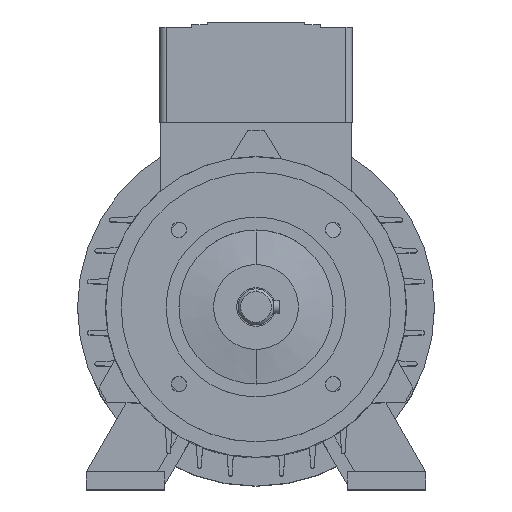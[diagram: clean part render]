
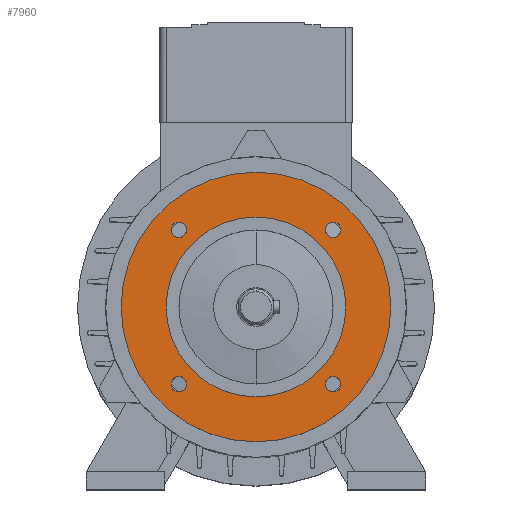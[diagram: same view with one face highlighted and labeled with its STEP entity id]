
A CAD part, top view. The second image highlights one B-rep face of the part: STEP entity #7960.
In plain terms, the highlighted planar face has unit normal (0, 0, 1).
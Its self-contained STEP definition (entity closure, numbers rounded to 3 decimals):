
#2505=CARTESIAN_POINT('',(-30.052,30.052,23.));
#2506=DIRECTION('',(0.,0.,-1.));
#2507=DIRECTION('',(-1.,0.,0.));
#2508=AXIS2_PLACEMENT_3D('',#2505,#2506,#2507);
#2510=CARTESIAN_POINT('',(-30.052,30.052,23.));
#2511=DIRECTION('',(0.,0.,-1.));
#2512=DIRECTION('',(1.,0.,0.));
#2513=AXIS2_PLACEMENT_3D('',#2510,#2511,#2512);
#2515=CARTESIAN_POINT('',(-30.052,-30.052,23.));
#2516=DIRECTION('',(0.,0.,-1.));
#2517=DIRECTION('',(-1.,0.,0.));
#2518=AXIS2_PLACEMENT_3D('',#2515,#2516,#2517);
#2520=CARTESIAN_POINT('',(-30.052,-30.052,23.));
#2521=DIRECTION('',(0.,0.,-1.));
#2522=DIRECTION('',(1.,0.,0.));
#2523=AXIS2_PLACEMENT_3D('',#2520,#2521,#2522);
#2525=CARTESIAN_POINT('',(30.052,-30.052,23.));
#2526=DIRECTION('',(0.,0.,-1.));
#2527=DIRECTION('',(-1.,0.,0.));
#2528=AXIS2_PLACEMENT_3D('',#2525,#2526,#2527);
#2530=CARTESIAN_POINT('',(30.052,-30.052,23.));
#2531=DIRECTION('',(0.,0.,-1.));
#2532=DIRECTION('',(1.,0.,0.));
#2533=AXIS2_PLACEMENT_3D('',#2530,#2531,#2532);
#2535=CARTESIAN_POINT('',(0.,0.,23.));
#2536=DIRECTION('',(0.,0.,1.));
#2537=DIRECTION('',(0.,1.,0.));
#2538=AXIS2_PLACEMENT_3D('',#2535,#2536,#2537);
#2540=CARTESIAN_POINT('',(0.,0.,23.));
#2541=DIRECTION('',(0.,0.,-1.));
#2542=DIRECTION('',(0.,1.,0.));
#2543=AXIS2_PLACEMENT_3D('',#2540,#2541,#2542);
#2545=CARTESIAN_POINT('',(30.052,30.052,23.));
#2546=DIRECTION('',(0.,0.,-1.));
#2547=DIRECTION('',(-1.,0.,0.));
#2548=AXIS2_PLACEMENT_3D('',#2545,#2546,#2547);
#2550=CARTESIAN_POINT('',(30.052,30.052,23.));
#2551=DIRECTION('',(0.,0.,-1.));
#2552=DIRECTION('',(1.,0.,0.));
#2553=AXIS2_PLACEMENT_3D('',#2550,#2551,#2552);
#2987=CARTESIAN_POINT('',(0.,0.,23.));
#2988=DIRECTION('',(0.,0.,1.));
#2989=DIRECTION('',(0.,1.,0.));
#2990=AXIS2_PLACEMENT_3D('',#2987,#2988,#2989);
#2992=CARTESIAN_POINT('',(0.,0.,23.));
#2993=DIRECTION('',(0.,0.,-1.));
#2994=DIRECTION('',(0.,1.,0.));
#2995=AXIS2_PLACEMENT_3D('',#2992,#2993,#2994);
#3567=CARTESIAN_POINT('',(0.,52.5,23.));
#3569=VERTEX_POINT('',#3567);
#3570=CARTESIAN_POINT('',(0.,35.,23.));
#3572=VERTEX_POINT('',#3570);
#3575=CARTESIAN_POINT('',(0.,-52.5,23.));
#3577=VERTEX_POINT('',#3575);
#3578=CARTESIAN_POINT('',(0.,-35.,23.));
#3580=VERTEX_POINT('',#3578);
#3590=CARTESIAN_POINT('',(27.052,30.052,23.));
#3591=CARTESIAN_POINT('',(33.052,30.052,23.));
#3592=VERTEX_POINT('',#3590);
#3593=VERTEX_POINT('',#3591);
#3594=CARTESIAN_POINT('',(27.052,-30.052,23.));
#3595=CARTESIAN_POINT('',(33.052,-30.052,23.));
#3596=VERTEX_POINT('',#3594);
#3597=VERTEX_POINT('',#3595);
#3598=CARTESIAN_POINT('',(-33.052,-30.052,23.));
#3599=CARTESIAN_POINT('',(-27.052,-30.052,23.));
#3600=VERTEX_POINT('',#3598);
#3601=VERTEX_POINT('',#3599);
#3602=CARTESIAN_POINT('',(-33.052,30.052,23.));
#3603=CARTESIAN_POINT('',(-27.052,30.052,23.));
#3604=VERTEX_POINT('',#3602);
#3605=VERTEX_POINT('',#3603);
#7921=CARTESIAN_POINT('',(0.,0.,23.));
#7922=DIRECTION('',(0.,0.,-1.));
#7923=DIRECTION('',(0.,-1.,0.));
#7924=AXIS2_PLACEMENT_3D('',#7921,#7922,#7923);
#7925=PLANE('',#7924);
#7926=ORIENTED_EDGE('',*,*,#7914,.F.);
#7927=ORIENTED_EDGE('',*,*,#7903,.T.);
#7928=EDGE_LOOP('',(#7926,#7927));
#7929=FACE_OUTER_BOUND('',#7928,.F.);
#7931=ORIENTED_EDGE('',*,*,#7930,.F.);
#7933=ORIENTED_EDGE('',*,*,#7932,.F.);
#7934=EDGE_LOOP('',(#7931,#7933));
#7935=FACE_BOUND('',#7934,.F.);
#7937=ORIENTED_EDGE('',*,*,#7936,.F.);
#7939=ORIENTED_EDGE('',*,*,#7938,.F.);
#7940=EDGE_LOOP('',(#7937,#7939));
#7941=FACE_BOUND('',#7940,.F.);
#7943=ORIENTED_EDGE('',*,*,#7942,.F.);
#7945=ORIENTED_EDGE('',*,*,#7944,.F.);
#7946=EDGE_LOOP('',(#7943,#7945));
#7947=FACE_BOUND('',#7946,.F.);
#7949=ORIENTED_EDGE('',*,*,#7948,.F.);
#7951=ORIENTED_EDGE('',*,*,#7950,.T.);
#7952=EDGE_LOOP('',(#7949,#7951));
#7953=FACE_BOUND('',#7952,.F.);
#7955=ORIENTED_EDGE('',*,*,#7954,.F.);
#7957=ORIENTED_EDGE('',*,*,#7956,.F.);
#7958=EDGE_LOOP('',(#7955,#7957));
#7959=FACE_BOUND('',#7958,.F.);
#7960=ADVANCED_FACE('',(#7929,#7935,#7941,#7947,#7953,#7959),#7925,.F.);
#2509=CIRCLE('',#2508,3.);
#2514=CIRCLE('',#2513,3.);
#2519=CIRCLE('',#2518,3.);
#2524=CIRCLE('',#2523,3.);
#2529=CIRCLE('',#2528,3.);
#2534=CIRCLE('',#2533,3.);
#2539=CIRCLE('',#2538,52.5);
#2544=CIRCLE('',#2543,52.5);
#2549=CIRCLE('',#2548,3.);
#2554=CIRCLE('',#2553,3.);
#2991=CIRCLE('',#2990,35.);
#2996=CIRCLE('',#2995,35.);
#7903=EDGE_CURVE('',#3569,#3577,#2544,.T.);
#7914=EDGE_CURVE('',#3569,#3577,#2539,.T.);
#7930=EDGE_CURVE('',#3604,#3605,#2509,.T.);
#7932=EDGE_CURVE('',#3605,#3604,#2514,.T.);
#7936=EDGE_CURVE('',#3600,#3601,#2519,.T.);
#7938=EDGE_CURVE('',#3601,#3600,#2524,.T.);
#7942=EDGE_CURVE('',#3596,#3597,#2529,.T.);
#7944=EDGE_CURVE('',#3597,#3596,#2534,.T.);
#7948=EDGE_CURVE('',#3572,#3580,#2996,.T.);
#7950=EDGE_CURVE('',#3572,#3580,#2991,.T.);
#7954=EDGE_CURVE('',#3592,#3593,#2549,.T.);
#7956=EDGE_CURVE('',#3593,#3592,#2554,.T.);
